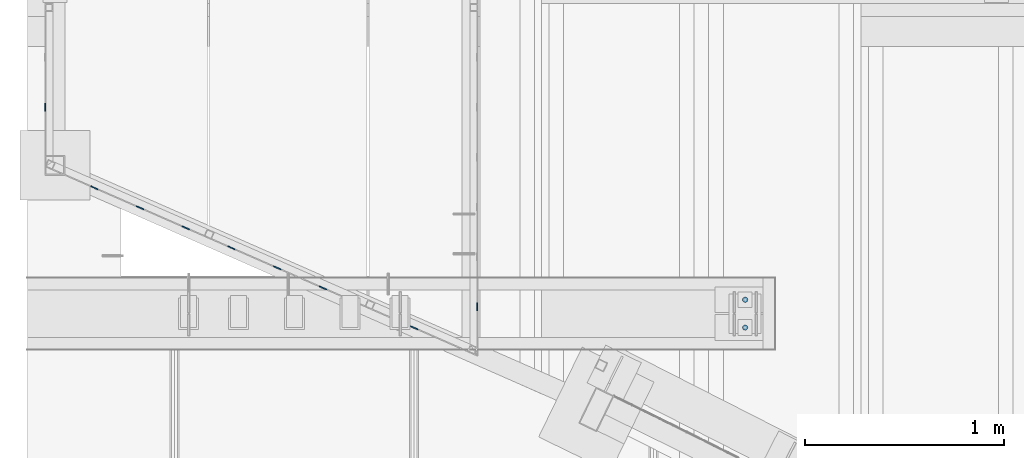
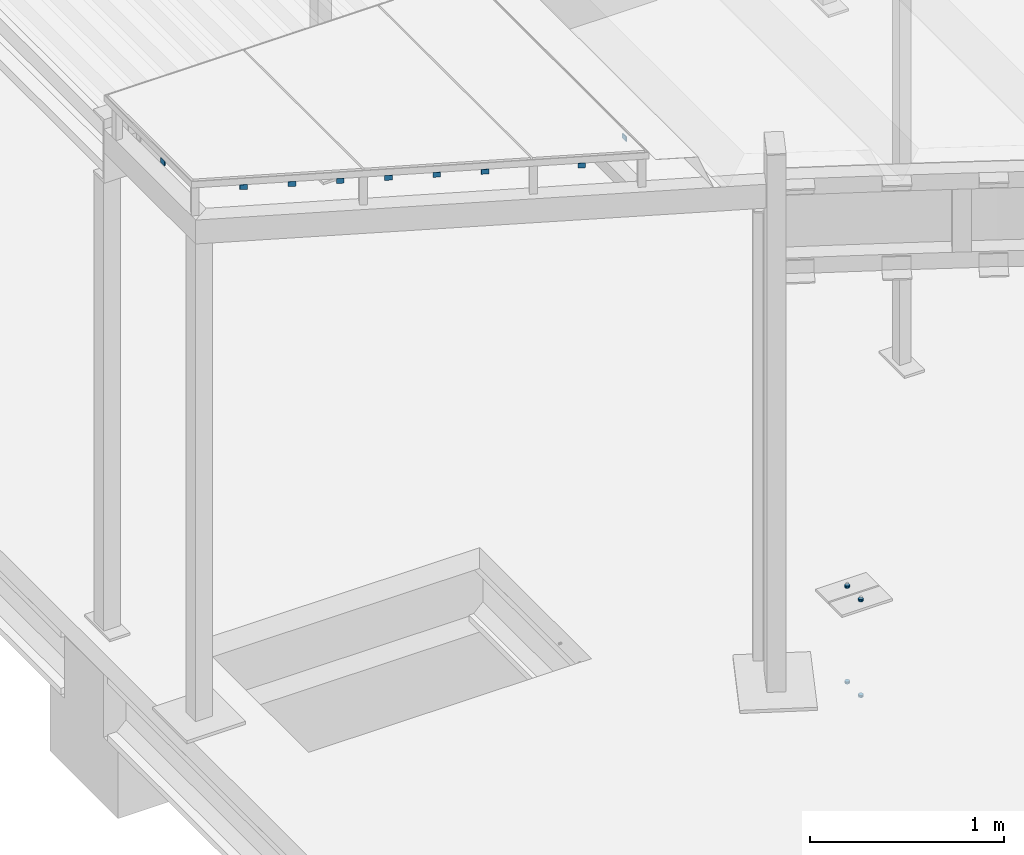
# One storey, part 36 of 98: 13 beams.
"""IFC2X3 building model written with IfcOpenShell, lengths in millimetres."""

from ifc_helpers import new_model, entity, si_unit, converted_unit, derived_unit, direction, frame, origin_with_axes, place, context, subcontext, project, spatial, faceted_brep, material, type_object, element, save


model = new_model("IFC2X3")

# Units and contexts
model_context = context("Model", 3, precision=0.01, world=frame((0.0, 4.29681676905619e-09, 0.0)), true_north=direction((4.01073788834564e-13, 1.0)))
plan_context = context("Plan", 3, precision=0.01, world=frame((0.0, 4.29681676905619e-09, 0.0)), true_north=direction((4.01073788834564e-13, 1.0)))
body_context = subcontext(model_context, "Body", "Model", "MODEL_VIEW")
ifc_project = project(units=[converted_unit("PLANEANGLEUNIT", "DEGREE", entity("IfcPositiveLengthMeasure", 0.0174532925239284), si_unit("PLANEANGLEUNIT", "RADIAN"), dimensions=[0, 0, 0, 0, 0, 0, 0]), si_unit("AREAUNIT", "SQUARE_METRE"), si_unit("LENGTHUNIT", "METRE", prefix="MILLI"), si_unit("MASSUNIT", "GRAM", prefix="KILO"), si_unit("POWERUNIT", "WATT"), si_unit("PRESSUREUNIT", "PASCAL"), si_unit("FORCEUNIT", "NEWTON", prefix="KILO"), si_unit("ELECTRICCURRENTUNIT", "AMPERE"), si_unit("THERMODYNAMICTEMPERATUREUNIT", "DEGREE_CELSIUS"), si_unit("TIMEUNIT", "SECOND"), si_unit("VOLUMEUNIT", "CUBIC_METRE"), derived_unit("LINEARVELOCITYUNIT", [(si_unit("LENGTHUNIT", "METRE"), 1), (si_unit("TIMEUNIT", "SECOND"), -1)]), derived_unit("VOLUMETRICFLOWRATEUNIT", [(si_unit("VOLUMEUNIT", "CUBIC_METRE"), 1), (si_unit("TIMEUNIT", "SECOND"), -1)]), derived_unit("THERMALTRANSMITTANCEUNIT", [(si_unit("POWERUNIT", "WATT"), 1), (si_unit("THERMODYNAMICTEMPERATUREUNIT", "KELVIN"), -1), (si_unit("AREAUNIT", "SQUARE_METRE"), -1)])], contexts=[model_context, plan_context])

# Site, building, storey
site_placement = place(None, frame((0.0, -4.29681676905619e-09, 0.0), z_axis=(0.0, 0.0, 1.0), x_axis=(1.0, 0.0, 0.0)))
site = spatial("IfcSite", under=ifc_project, at=site_placement, Name="Gardermoen", CompositionType="ELEMENT")
building_placement = place(site_placement, frame((0.0, 4.29681676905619e-09, 0.0), z_axis=(0.0, 0.0, 1.0), x_axis=(1.0, 0.0, 0.0)))
building = spatial("IfcBuilding", under=site, at=building_placement, Name="TS", CompositionType="ELEMENT")
storey_placement = place(building_placement, origin_with_axes())
storey = spatial("IfcBuildingStorey", under=building, at=storey_placement, Name="D", CompositionType="ELEMENT", Elevation=0.0)

# Beams
ifc_material_1 = material(Name="STEEL/S355")
beam_type_1 = type_object("IfcBeamType", Name="PL30*5", PredefinedType="NOTDEFINED")
for number, where, z_axis, x_axis in (
    (1, (516117.498418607, 412864.981078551, 207259.810914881), (0.0, 0.0, 1.0), (0.0, -1.0, 0.0)),
    (2, (513952.498435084, 413864.981078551, 207260.0), (0.0, 0.0, 1.0), (0.0, -1.0, 0.0)),
):
    element("IfcBeam", number, at=place(storey_placement, frame(where, z_axis=z_axis, x_axis=x_axis)), inside=storey, type_object=beam_type_1, material=ifc_material_1, Name="STÅLBJELKE", ObjectType="PL30*5", context=body_context, shape_type="Brep", body=[
        faceted_brep([(0.0, 2.5, -15.0), (0.0, 2.5, 15.0), (40.0, 2.5, 15.0), (40.0, 2.5, -15.0), (0.0, -2.5, 15.0), (40.0, -2.5, 15.0), (0.0, -2.5, -15.0), (40.0, -2.5, -15.0)], [[[0, 1, 2, 3]], [[1, 4, 5, 2]], [[4, 6, 7, 5]], [[6, 0, 3, 7]], [[5, 7, 3, 2]], [[6, 4, 1, 0]]]),
    ])
for number, where, z_axis, x_axis in (
    (3, (515782.911926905, 412747.000389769, 207260.0), (0.0, 0.0, 1.0), (0.91353213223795, -0.406766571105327, 0.0)),
    (4, (515324.911926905, 412947.580389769, 207260.0), (0.0, 0.0, 1.0), (0.91353213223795, -0.406766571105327, 0.0)),
    (5, (515095.911926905, 413047.870389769, 207260.0), (0.0, 0.0, 1.0), (0.91353213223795, -0.406766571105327, 0.0)),
    (6, (514866.911926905, 413148.160389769, 207260.0), (0.0, 0.0, 1.0), (0.91353213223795, -0.406766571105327, 0.0)),
    (7, (514637.911926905, 413248.450389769, 207260.0), (0.0, 0.0, 1.0), (0.91353213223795, -0.406766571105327, 0.0)),
    (8, (514408.911926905, 413348.740389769, 207260.0), (0.0, 0.0, 1.0), (0.91353213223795, -0.406766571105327, 0.0)),
    (9, (514179.911926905, 413449.030389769, 207260.0), (0.0, 0.0, 1.0), (0.91353213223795, -0.406766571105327, 0.0)),
):
    element("IfcBeam", number, at=place(storey_placement, frame(where, z_axis=z_axis, x_axis=x_axis)), inside=storey, type_object=beam_type_1, material=ifc_material_1, Name="STÅLBJELKE", ObjectType="PL30*5", context=body_context, shape_type="Brep", body=[
        faceted_brep([(0.0, 2.5, -15.0), (0.0, 2.5, 15.0), (40.0092122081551, 2.49999999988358, 15.0), (40.0092122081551, 2.49999999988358, -15.0), (0.0, -2.5, 15.0), (40.0092122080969, -2.50000000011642, 15.0), (0.0, -2.5, -15.0), (40.0092122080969, -2.50000000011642, -15.0)], [[[0, 1, 2, 3]], [[1, 4, 5, 2]], [[4, 6, 7, 5]], [[6, 0, 3, 7]], [[5, 7, 3, 2]], [[6, 4, 1, 0]]]),
    ])
ifc_material_2 = material(Name="STEEL/Steel_Undefined")
beam_type_2 = type_object("IfcBeamType", Name="D26.75", PredefinedType="NOTDEFINED")
for number, where, z_axis, x_axis in (
    (10, (517459.999766, 412740.0, 203343.2), (-0.999999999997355, 0.0, -2.2999995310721e-06), (-2.2999995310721e-06, 0.0, 0.999999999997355)),
    (11, (517459.999766, 412880.0, 203343.2), (-0.999999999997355, 0.0, -2.2999995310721e-06), (-2.2999995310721e-06, 0.0, 0.999999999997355)),
    (12, (517459.999766, 412740.0, 203945.0), (-0.999999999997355, 0.0, -2.2999995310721e-06), (-2.2999995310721e-06, 0.0, 0.999999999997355)),
    (13, (517459.999766, 412880.0, 203945.0), (-0.999999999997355, 0.0, -2.2999995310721e-06), (-2.2999995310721e-06, 0.0, 0.999999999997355)),
):
    element("IfcBeam", number, at=place(storey_placement, frame(where, z_axis=z_axis, x_axis=x_axis)), inside=storey, type_object=beam_type_2, material=ifc_material_2, Name="MUTTER", ObjectType="D26.75", context=body_context, shape_type="Brep", body=[
        faceted_brep([(-2.91038304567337e-11, -13.375, 0.0), (0.0, -11.5830897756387, -6.68750000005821), (14.8000000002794, -11.5830897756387, -6.6875), (14.8000000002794, -13.375, 5.82076609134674e-11), (0.0, -6.6875, -11.5830897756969), (14.8000000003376, -6.6875, -11.5830897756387), (2.91038304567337e-11, 0.0, -13.3750000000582), (14.8000000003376, 0.0, -13.375), (0.0, 6.6875, -11.5830897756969), (14.8000000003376, 6.6875, -11.5830897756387), (0.0, 11.5830897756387, -6.68750000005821), (14.8000000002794, 11.5830897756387, -6.6875), (-2.91038304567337e-11, 13.375, 0.0), (14.8000000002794, 13.375, 5.82076609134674e-11), (-5.82076609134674e-11, 11.5830897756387, 6.6875), (14.8000000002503, 11.5830897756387, 6.68750000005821), (-8.73114913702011e-11, 6.6875, 11.5830897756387), (14.8000000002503, 6.6875, 11.5830897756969), (-8.73114913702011e-11, 0.0, 13.375), (14.8000000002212, 0.0, 13.3750000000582), (-8.73114913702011e-11, -6.6875, 11.5830897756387), (14.8000000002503, -6.6875, 11.5830897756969), (-5.82076609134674e-11, -11.5830897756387, 6.6875), (14.8000000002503, -11.5830897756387, 6.68750000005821)], [[[0, 1, 2, 3]], [[1, 4, 5, 2]], [[4, 6, 7, 5]], [[6, 8, 9, 7]], [[8, 10, 11, 9]], [[10, 12, 13, 11]], [[12, 14, 15, 13]], [[14, 16, 17, 15]], [[16, 18, 19, 17]], [[18, 20, 21, 19]], [[20, 22, 23, 21]], [[22, 0, 3, 23]], [[5, 7, 9, 11, 13, 15, 17, 19, 21, 23, 3, 2]], [[22, 20, 18, 16, 14, 12, 10, 8, 6, 4, 1, 0]]]),
    ])

save(model, "model.ifc")
